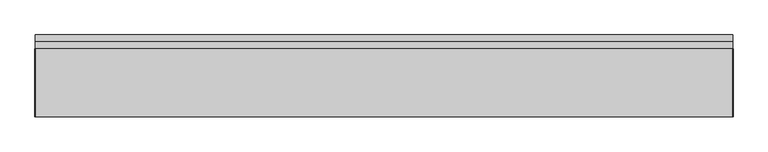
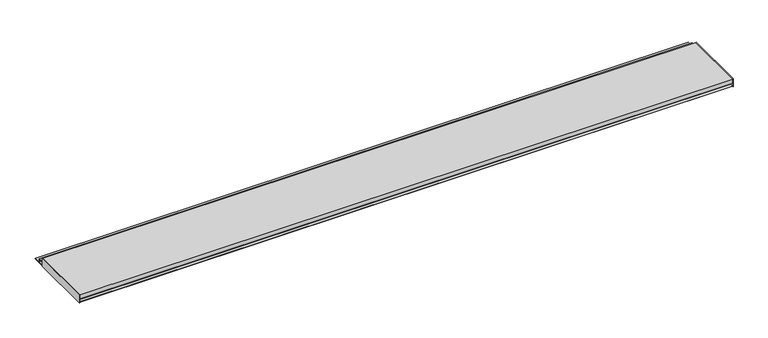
"""IFC4 building model written with IfcOpenShell, lengths in millimetres: proxy geometry, Alubel Alu-Skin panel : Alu-Skin Panel H 205mm with joint."""

from ifc_helpers import new_model, si_unit, frame, origin, place, context, project, spatial, polyline, outline, extrude, source, transform, mapped, element, save


def generic_models_e221bb01(model_context):
    return source(origin(), model_context, "Body", "SweptSolid", [
        extrude(outline(polyline([(-1000.0, 92.5), (-1000.0, -102.5), (-1001.0, -102.5), (-1001.0, 92.5), (-1000.0, 92.5)])), frame((0.0, 0.0, 99.0), z_axis=(0.0, 0.0, 1.0), x_axis=(1.0, 0.0, 0.0)), (0.0, 0.0, 1.0), 25.0),
        extrude(outline(polyline([(1001.0, 92.5), (1001.0, -102.5), (1000.0, -102.5), (1000.0, 92.5), (1001.0, 92.5)])), frame((0.0, 0.0, 99.0), z_axis=(0.0, 0.0, 1.0), x_axis=(1.0, 0.0, 0.0)), (0.0, 0.0, 1.0), 25.0),
        extrude(outline(polyline([(-102.5, 124.0), (92.5, 124.0), (92.5, 111.0), (112.5, 111.0), (112.5, 101.0), (92.5, 101.0), (92.5, 100.0), (132.5, 100.0), (132.5, 99.0), (91.5, 99.0), (91.5, 102.0), (111.5, 102.0), (111.5, 110.0), (91.5, 110.0), (91.5, 123.0), (-101.5, 123.0), (-101.5, 112.0), (-91.5, 112.0), (-91.5, 100.0), (-102.5, 100.0), (-102.5, 101.0), (-92.5, 101.0), (-92.5, 111.0), (-102.5, 111.0), (-102.5, 124.0)])), frame((-1000.0, 0.0, 0.0), z_axis=(1.0, 0.0, 0.0), x_axis=(0.0, 1.0, 0.0)), (0.0, 0.0, 1.0), 2000.0),
    ])


if __name__ == "__main__":
    model = new_model("IFC4")
    model_context = context("Model", 3, world=origin())
    ifc_project = project(units=[si_unit("LENGTHUNIT", "METRE", prefix="MILLI")], contexts=[model_context])
    site = spatial("IfcSite", under=ifc_project)
    building = spatial("IfcBuilding", under=site)
    placement = place(None, origin())
    generic_models_shape = generic_models_e221bb01(model_context)
    element("IfcBuildingElementProxy", 1, Name="Alubel Alu-Skin panel : Alu-Skin Panel H 205mm with joint", ObjectType="Alubel Alu-Skin panel : Alu-Skin Panel H 205mm with joint", at=placement, inside=building, context=model_context, shape_type="MappedRepresentation", body=[
        mapped(generic_models_shape, transform((0.0, 0.0, 0.0), x_axis=(1.0, 0.0, 0.0), y_axis=(0.0, 1.0, 0.0), z_axis=(0.0, 0.0, 1.0))),
    ])
    save(model, "model.ifc")
